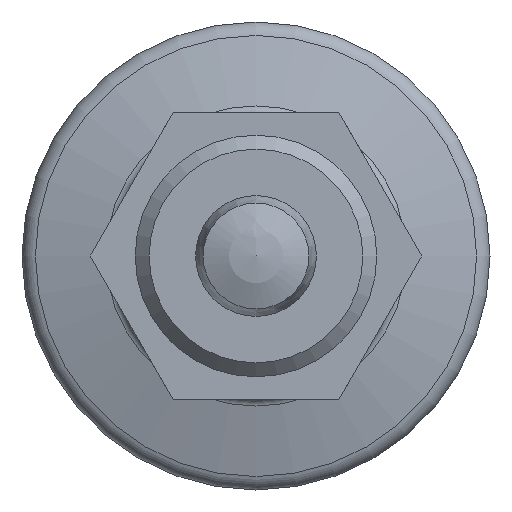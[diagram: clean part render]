
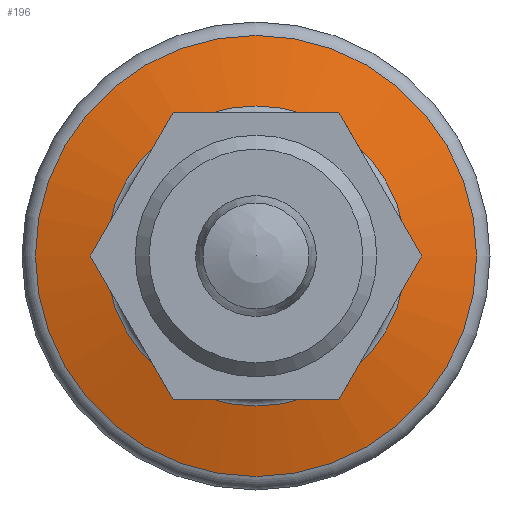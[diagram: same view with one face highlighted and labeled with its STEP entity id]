
A CAD part, front view. The second image highlights one B-rep face of the part: STEP entity #196.
In plain terms, the highlighted conical face has half-angle 75 degrees and reference radius 14.611 mm.
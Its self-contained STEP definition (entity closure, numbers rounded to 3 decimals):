
#196 = ADVANCED_FACE( '', ( #278, #279 ), #280, .T. );
#278 = FACE_BOUND( '', #415, .T. );
#279 = FACE_OUTER_BOUND( '', #416, .T. );
#280 = CONICAL_SURFACE( '', #417, 14.611, 1.309 );
#415 = EDGE_LOOP( '', ( #614 ) );
#416 = EDGE_LOOP( '', ( #615 ) );
#417 = AXIS2_PLACEMENT_3D( '', #616, #617, #618 );
#614 = ORIENTED_EDGE( '', *, *, #714, .F. );
#615 = ORIENTED_EDGE( '', *, *, #713, .T. );
#616 = CARTESIAN_POINT( '', ( 51.762, 0., 0. ) );
#617 = DIRECTION( '', ( 1., 0., 0. ) );
#618 = DIRECTION( '', ( 0., 1., 0. ) );
#713 = EDGE_CURVE( '', #799, #799, #800, .T. );
#714 = EDGE_CURVE( '', #801, #801, #802, .T. );
#799 = VERTEX_POINT( '', #975 );
#800 = CIRCLE( '', #976, 14.611 );
#801 = VERTEX_POINT( '', #977 );
#802 = CIRCLE( '', #978, 9.94 );
#975 = CARTESIAN_POINT( '', ( 51.762, -14.611, 0. ) );
#976 = AXIS2_PLACEMENT_3D( '', #1066, #1067, #1068 );
#977 = CARTESIAN_POINT( '', ( 50.51, -9.94, 0. ) );
#978 = AXIS2_PLACEMENT_3D( '', #1069, #1070, #1071 );
#1066 = CARTESIAN_POINT( '', ( 51.762, 0., 0. ) );
#1067 = DIRECTION( '', ( -1., 0., 0. ) );
#1068 = DIRECTION( '', ( 0., -1., 0. ) );
#1069 = CARTESIAN_POINT( '', ( 50.51, 0., 0. ) );
#1070 = DIRECTION( '', ( -1., 0., 0. ) );
#1071 = DIRECTION( '', ( 0., -1., 0. ) );
